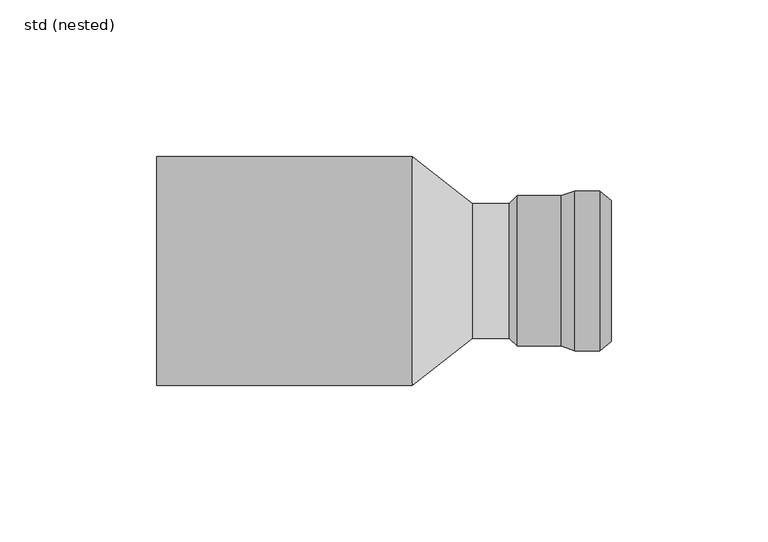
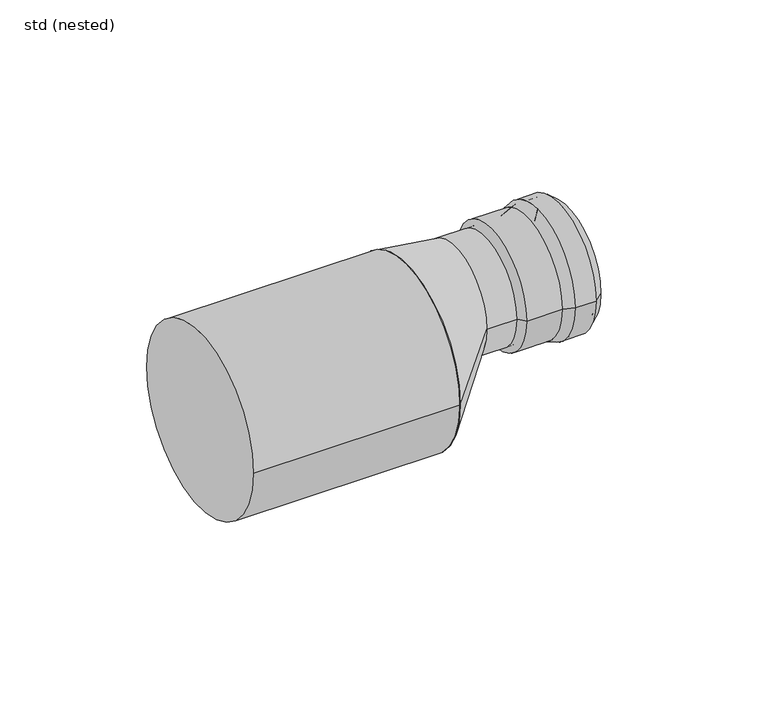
"""IFC4 building model written with IfcOpenShell, lengths in millimetres: pipe fitting geometry, ZZZ_do not use_PIF_ST_UN_GM-X transition element_ACO : std (nested)."""

from ifc_helpers import new_model, si_unit, point, frame, frame_2d, origin, origin_2d, place, context, project, spatial, polyline, circle_curve, trimmed, segment, composite_curve, outline, extrude, source, transform, mapped, element, save
from ifc_brep_helpers import plane_surface, cylinder_surface, revolved_surface, spline_surface, advanced_brep


def std_nested_09001758(model_context):
    return source(origin(), model_context, "Body", "SolidModel", [
        advanced_brep(
        [(75.8, -25.5, 15.5), (75.8, 25.5, 15.5), (83.84, 25.5, 15.5), (83.84, -25.5, 15.5), (71.5, -24.0, 15.5), (71.5, 24.0, 15.5), (87.5, 22.5, 15.5), (87.5, -22.5, 15.5), (57.5, -24.0, 15.5), (57.5, 24.0, 15.5), (55.0, -21.5, 15.5), (55.0, 21.5, 15.5), (57.5, -21.5, 15.5), (57.5, 21.5, 15.5), (71.754119, -22.5, 15.5), (71.754119, 22.5, 15.5), (57.5, 22.5, 15.5), (57.5, -22.5, 15.5), (76.054119, -24.0, 15.5), (76.054119, 24.0, 15.5), (83.3038005, -24.0, 15.5), (83.3038005, 24.0, 15.5), (86.5491081, -21.3399118, 15.5), (86.5491081, 21.3399118, 15.5)],
        [
            (0, 1, circle_curve(frame((75.8, 0.0, 15.5), z_axis=(1.0, 0.0, 0.0), x_axis=(0.0, 1.0, 0.0)), 25.5)),
            (1, 2),
            (2, 3, circle_curve(frame((83.84, 0.0, 15.5), z_axis=(-1.0, 0.0, 0.0), x_axis=(0.0, 1.0, 0.0)), 25.5)),
            (3, 0),
            (1, 0, circle_curve(frame((75.8, 0.0, 15.5), z_axis=(1.0, 0.0, 0.0), x_axis=(0.0, 1.0, 0.0)), 25.5)),
            (3, 2, circle_curve(frame((83.84, 0.0, 15.5), z_axis=(-1.0, 0.0, 0.0), x_axis=(0.0, 1.0, 0.0)), 25.5)),
            (4, 5, circle_curve(frame((71.5, 0.0, 15.5), z_axis=(1.0, 0.0, 0.0), x_axis=(0.0, 1.0, 0.0)), 24.0)),
            (5, 1),
            (0, 4),
            (5, 4, circle_curve(frame((71.5, 0.0, 15.5), z_axis=(1.0, 0.0, 0.0), x_axis=(0.0, 1.0, 0.0)), 24.0)),
            (2, 6),
            (6, 7, circle_curve(frame((87.5, 0.0, 15.5), z_axis=(-1.0, 0.0, 0.0), x_axis=(0.0, 1.0, 0.0)), 22.5)),
            (7, 3),
            (7, 6, circle_curve(frame((87.5, 0.0, 15.5), z_axis=(-1.0, 0.0, 0.0), x_axis=(0.0, 1.0, 0.0)), 22.5)),
            (8, 9, circle_curve(frame((57.5, 0.0, 15.5), z_axis=(1.0, 0.0, 0.0), x_axis=(0.0, 1.0, 0.0)), 24.0)),
            (9, 5),
            (4, 8),
            (9, 8, circle_curve(frame((57.5, 0.0, 15.5), z_axis=(1.0, 0.0, 0.0), x_axis=(0.0, 1.0, 0.0)), 24.0)),
            (10, 11, circle_curve(frame((55.0, 0.0, 15.5), z_axis=(1.0, 0.0, 0.0), x_axis=(0.0, 1.0, 0.0)), 21.5)),
            (11, 9),
            (8, 10),
            (11, 10, circle_curve(frame((55.0, 0.0, 15.5), z_axis=(1.0, 0.0, 0.0), x_axis=(0.0, 1.0, 0.0)), 21.5)),
            (12, 13, circle_curve(frame((57.5, 0.0, 15.5), z_axis=(1.0, 0.0, 0.0), x_axis=(0.0, 1.0, 0.0)), 21.5)),
            (13, 11),
            (10, 12),
            (13, 12, circle_curve(frame((57.5, 0.0, 15.5), z_axis=(1.0, 0.0, 0.0), x_axis=(0.0, 1.0, 0.0)), 21.5)),
            (14, 15, circle_curve(frame((71.754119, 0.0, 15.5), z_axis=(1.0, 0.0, 0.0), x_axis=(0.0, 1.0, 0.0)), 22.5)),
            (15, 16),
            (16, 17, circle_curve(frame((57.5, 0.0, 15.5), z_axis=(-1.0, 0.0, 0.0), x_axis=(0.0, 1.0, 0.0)), 22.5)),
            (17, 14),
            (15, 14, circle_curve(frame((71.754119, 0.0, 15.5), z_axis=(1.0, 0.0, 0.0), x_axis=(0.0, 1.0, 0.0)), 22.5)),
            (17, 16, circle_curve(frame((57.5, 0.0, 15.5), z_axis=(-1.0, 0.0, 0.0), x_axis=(0.0, 1.0, 0.0)), 22.5)),
            (18, 19, circle_curve(frame((76.054119, 0.0, 15.5), z_axis=(1.0, 0.0, 0.0), x_axis=(0.0, 1.0, 0.0)), 24.0)),
            (19, 15),
            (14, 18),
            (19, 18, circle_curve(frame((76.054119, 0.0, 15.5), z_axis=(1.0, 0.0, 0.0), x_axis=(0.0, 1.0, 0.0)), 24.0)),
            (20, 21, circle_curve(frame((83.3038005, 0.0, 15.5), z_axis=(1.0, 0.0, 0.0), x_axis=(0.0, 1.0, 0.0)), 24.0)),
            (21, 19),
            (18, 20),
            (21, 20, circle_curve(frame((83.3038005, 0.0, 15.5), z_axis=(1.0, 0.0, 0.0), x_axis=(0.0, 1.0, 0.0)), 24.0)),
            (22, 23, circle_curve(frame((86.5491081, 0.0, 15.5), z_axis=(1.0, 0.0, 0.0), x_axis=(0.0, 1.0, 0.0)), 21.3399118)),
            (23, 21),
            (20, 22),
            (23, 22, circle_curve(frame((86.5491081, 0.0, 15.5), z_axis=(1.0, 0.0, 0.0), x_axis=(0.0, 1.0, 0.0)), 21.3399118)),
            (6, 23),
            (22, 7),
            (16, 13),
            (12, 17),
        ],
        [
            cylinder_surface(frame((84.1444117, 0.0, 15.5), z_axis=(-1.0, 0.0, 0.0), x_axis=(0.0, 1.0, 0.0)), 25.5),
            revolved_surface(polyline([(75.8, 25.5, 15.5), (71.5, 24.0, 15.5)]), (84.1444117, 0.0, 15.5), (-1.0, 0.0, 0.0)),
            revolved_surface(polyline([(87.5, 22.5, 15.5), (83.84, 25.5, 15.5)]), (84.1444117, 0.0, 15.5), (-1.0, 0.0, 0.0)),
            cylinder_surface(frame((84.1444117, 0.0, 15.5), z_axis=(-1.0, 0.0, 0.0), x_axis=(0.0, 1.0, 0.0)), 24.0),
            revolved_surface(polyline([(57.5, 24.0, 15.5), (55.0, 21.5, 15.5)]), (84.1444117, 0.0, 15.5), (-1.0, 0.0, 0.0)),
            revolved_surface(polyline([(55.0, 21.5, 15.5), (57.5, 21.5, 15.5)]), (84.1444117, 0.0, 15.5), (-1.0, 0.0, 0.0)),
            revolved_surface(polyline([(57.5, 22.5, 15.5), (71.754119, 22.5, 15.5)]), (84.1444117, 0.0, 15.5), (-1.0, 0.0, 0.0)),
            revolved_surface(polyline([(71.754119, 22.5, 15.5), (76.054119, 24.0, 15.5)]), (84.1444117, 0.0, 15.5), (-1.0, 0.0, 0.0)),
            revolved_surface(polyline([(76.054119, 24.0, 15.5), (83.3038005, 24.0, 15.5)]), (84.1444117, 0.0, 15.5), (-1.0, 0.0, 0.0)),
            revolved_surface(polyline([(83.3038005, 24.0, 15.5), (86.5491081, 21.3399118, 15.5)]), (84.1444117, 0.0, 15.5), (-1.0, 0.0, 0.0)),
            revolved_surface(polyline([(86.5491081, 21.3399118, 15.5), (87.5, 22.5, 15.5)]), (84.1444117, 0.0, 15.5), (-1.0, 0.0, 0.0)),
            plane_surface(frame((57.5, 0.0, 15.5), z_axis=(1.0, 0.0, 0.0), x_axis=(0.0, 1.0, 0.0))),
        ],
        [
            (0, [[1, 2, 3, 4]]),
            (0, [[5, -4, 6, -2]]),
            (1, [[7, 8, -1, 9]]),
            (1, [[10, -9, -5, -8]]),
            (2, [[-3, 11, 12, 13]]),
            (2, [[-6, -13, 14, -11]]),
            (3, [[15, 16, -7, 17]]),
            (3, [[18, -17, -10, -16]]),
            (4, [[19, 20, -15, 21]]),
            (4, [[22, -21, -18, -20]]),
            (5, [[23, 24, -19, 25]]),
            (5, [[26, -25, -22, -24]]),
            (6, [[27, 28, 29, 30]]),
            (6, [[31, -30, 32, -28]]),
            (7, [[33, 34, -27, 35]]),
            (7, [[36, -35, -31, -34]]),
            (8, [[37, 38, -33, 39]]),
            (8, [[40, -39, -36, -38]]),
            (9, [[41, 42, -37, 43]]),
            (9, [[44, -43, -40, -42]]),
            (10, [[-12, 45, -41, 46]]),
            (10, [[-14, -46, -44, -45]]),
            (11, [[-29, 47, -23, 48]]),
            (11, [[-32, -48, -26, -47]]),
        ],
    ),
        advanced_brep(
        [(43.125, -21.5, 15.5), (43.125, 21.5, 15.5), (23.9583333, -36.5, 0.0), (23.9583333, 36.5, 0.0)],
        [
            (0, 1, circle_curve(frame((43.125, 0.0, 15.5), z_axis=(1.0, 0.0, 0.0), x_axis=(0.0, 1.0, 0.0)), 21.5)),
            (1, 0, circle_curve(frame((43.125, 0.0, 15.5), z_axis=(1.0, 0.0, 0.0), x_axis=(0.0, 1.0, 0.0)), 21.5)),
            (2, 3, circle_curve(frame((23.9583333, 0.0, 0.0), z_axis=(-1.0, 0.0, 0.0), x_axis=(0.0, 1.0, 0.0)), 36.5)),
            (3, 2, circle_curve(frame((23.9583333, 0.0, 0.0), z_axis=(-1.0, 0.0, 0.0), x_axis=(0.0, 1.0, 0.0)), 36.5)),
            (3, 1),
            (0, 2),
        ],
        [
            plane_surface(frame((43.125, 0.0, 15.5), z_axis=(1.0, 0.0, 0.0), x_axis=(0.0, 0.0, -1.0))),
            plane_surface(frame((23.9583333, 0.0, 0.0), z_axis=(-1.0, 0.0, 0.0), x_axis=(0.0, 0.0, -1.0))),
            spline_surface(2, 1, [[(23.9583333, -36.5, 0.0), (43.125, -21.5, 15.5)], [(23.9583333, -36.5, -36.5), (43.125, -21.5, -6.0)], [(23.9583333, 0.0, -36.5), (43.125, 0.0, -6.0)], [(23.9583333, 36.5, -36.5), (43.125, 21.5, -6.0)], [(23.9583333, 36.5, 0.0), (43.125, 21.5, 15.5)]], [3, 2, 3], [2, 2], [0.0, 1.0, 2.0], [0.0, 1.0], weights=[[1.0, 1.0], [0.7071067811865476, 0.7071067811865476], [1.0, 1.0], [0.7071067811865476, 0.7071067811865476], [1.0, 1.0]]),
            spline_surface(2, 1, [[(23.9583333, 36.5, 0.0), (43.125, 21.5, 15.5)], [(23.9583333, 36.5, 36.5), (43.125, 21.5, 37.0)], [(23.9583333, 0.0, 36.5), (43.125, 0.0, 37.0)], [(23.9583333, -36.5, 36.5), (43.125, -21.5, 37.0)], [(23.9583333, -36.5, 0.0), (43.125, -21.5, 15.5)]], [3, 2, 3], [2, 2], [0.0, 1.0, 2.0], [0.0, 1.0], weights=[[1.0, 1.0], [0.7071067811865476, 0.7071067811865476], [1.0, 1.0], [0.7071067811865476, 0.7071067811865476], [1.0, 1.0]]),
        ],
        [
            (0, [[1, 2]]),
            (1, [[3, 4]]),
            (2, [[-4, 5, -1, 6]]),
            (3, [[-3, -6, -2, -5]]),
        ],
    ),
        extrude(outline(composite_curve([segment(trimmed(circle_curve(frame_2d((0.0, 15.5)), 21.5), [point((21.5, 15.5))], [point((-21.5, 15.5))], False, "CARTESIAN"), True, "CONTINUOUS"), segment(trimmed(circle_curve(frame_2d((0.0, 15.5)), 21.5), [point((-21.5, 15.5))], [point((21.5, 15.5))], False, "CARTESIAN"), True, "CONTINUOUS")], self_intersect=False)), frame((43.125, 0.0, 0.0), z_axis=(1.0, 0.0, 0.0), x_axis=(0.0, 1.0, 0.0)), (0.0, 0.0, 1.0), 14.375),
        extrude(outline(composite_curve([segment(trimmed(circle_curve(origin_2d(), 36.5), [point((-36.5, 0.0))], [point((36.5, 0.0))], False, "CARTESIAN"), True, "CONTINUOUS"), segment(trimmed(circle_curve(origin_2d(), 36.5), [point((36.5, 0.0))], [point((-36.5, 0.0))], False, "CARTESIAN"), True, "CONTINUOUS")], self_intersect=False)), frame((-57.5, 0.0, 0.0), z_axis=(1.0, 0.0, 0.0), x_axis=(0.0, 1.0, 0.0)), (0.0, 0.0, 1.0), 81.4583333),
    ])


if __name__ == "__main__":
    model = new_model("IFC4")
    model_context = context("Model", 3, world=origin())
    ifc_project = project(units=[si_unit("LENGTHUNIT", "METRE", prefix="MILLI")], contexts=[model_context])
    site = spatial("IfcSite", under=ifc_project)
    building = spatial("IfcBuilding", under=site)
    placement = place(None, origin())
    std_nested_shape = std_nested_09001758(model_context)
    element("IfcPipeFitting", 1, ObjectType="ZZZ_do not use_PIF_ST_UN_GM-X transition element_ACO : std (nested)", at=placement, inside=building, context=model_context, shape_type="MappedRepresentation", body=[
        mapped(std_nested_shape, transform((0.0, 0.0, 0.0), x_axis=(1.0, 0.0, 0.0), y_axis=(0.0, 1.0, 0.0), z_axis=(0.0, 0.0, 1.0))),
    ])
    save(model, "model.ifc")
